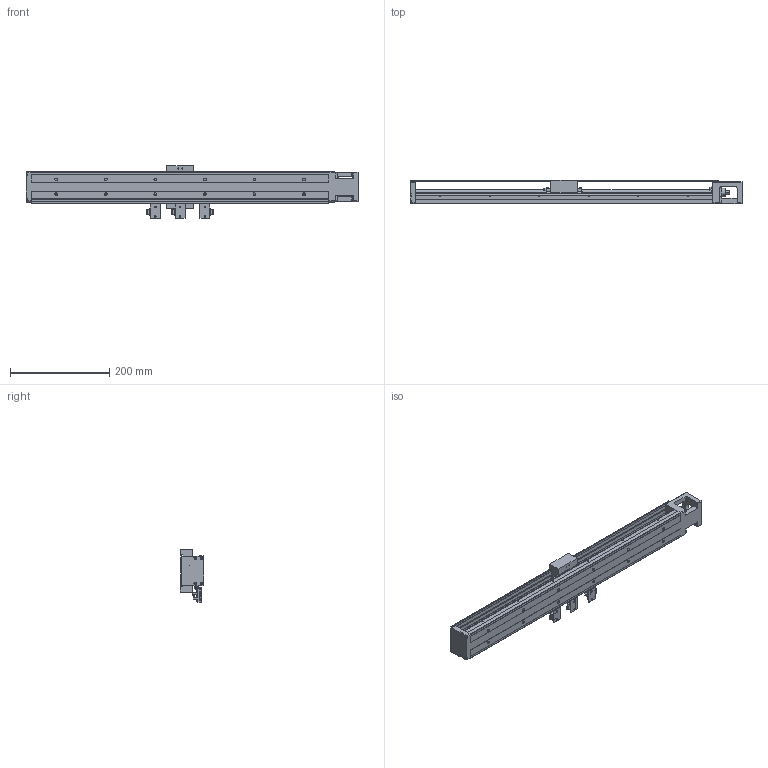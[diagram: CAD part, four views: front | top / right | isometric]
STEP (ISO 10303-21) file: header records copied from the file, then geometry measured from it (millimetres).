
FILE_DESCRIPTION (( 'STEP AP203' ), '1' );
FILE_NAME ('HKK60D10C-600A1-F0CS1.stp', '2021-11-29T03:42:22', ( '' ), ( '' ), 'SwSTEP 2.0', 'SolidWorks 2018', '' );
FILE_SCHEMA (( 'CONFIG_CONTROL_DESIGN' ));
Length unit declared in the file: millimetre
Products named in the file (1): HKK60D10C-600A1-F0CS1
Bounding box: 670 x 48 x 106.85 mm (x, y, z)
Volume: 809244.1 mm3; surface area: 315244.8 mm2
Topology: 6 solids, 20 shells, 1480 faces, 3747 edges, 2375 vertices
Faces by surface type: plane 882, cylinder 438, cone 126, torus 32, bspline 2
Entity records: 44413 total; most frequent: CARTESIAN_POINT 8876, ORIENTED_EDGE 7362, DIRECTION 7275, EDGE_CURVE 3681, VECTOR 2525, LINE 2525, VERTEX_POINT 2375, AXIS2_PLACEMENT_3D 2375
